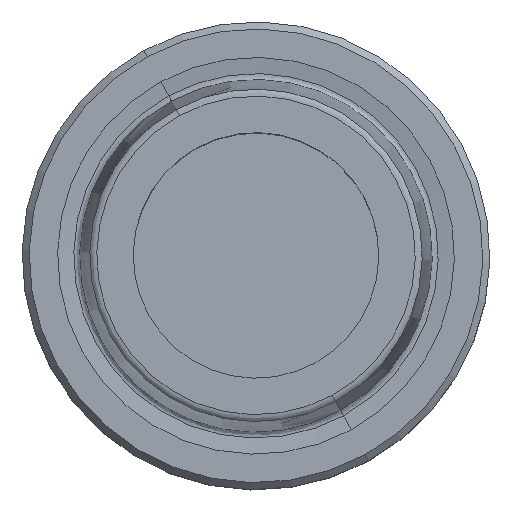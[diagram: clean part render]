
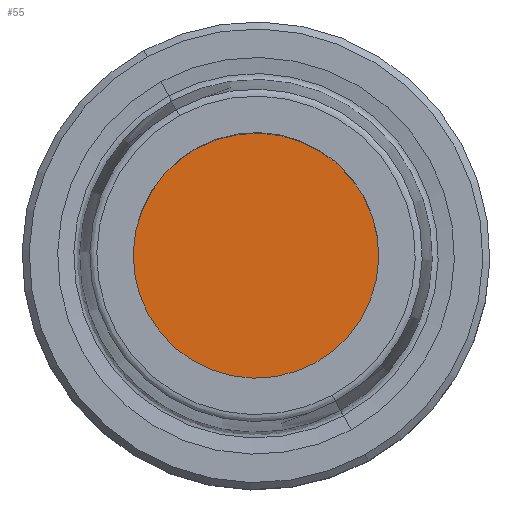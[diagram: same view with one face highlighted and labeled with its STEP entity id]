
A CAD part, top view. The second image highlights one B-rep face of the part: STEP entity #55.
In plain terms, the highlighted planar face has unit normal (0, 0, 1).
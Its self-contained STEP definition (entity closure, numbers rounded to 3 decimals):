
#35=AXIS2_PLACEMENT_3D('Plane Axis2P3D',#32,#33,#34) ;
#39=AXIS2_PLACEMENT_3D('Circle Axis2P3D',#37,#38,$) ;
#48=AXIS2_PLACEMENT_3D('Circle Axis2P3D',#46,#47,$) ;
#32=CARTESIAN_POINT('Axis2P3D Location',(0.,-9.9,-8.)) ;
#37=CARTESIAN_POINT('Axis2P3D Location',(0.,0.,-8.)) ;
#41=CARTESIAN_POINT('Vertex',(-5.034,9.215,-8.)) ;
#43=CARTESIAN_POINT('Vertex',(5.034,-9.215,-8.)) ;
#46=CARTESIAN_POINT('Axis2P3D Location',(0.,0.,-8.)) ;
#33=DIRECTION('Axis2P3D Direction',(0.,0.,-1.)) ;
#34=DIRECTION('Axis2P3D XDirection',(-1.,0.,0.)) ;
#38=DIRECTION('Axis2P3D Direction',(0.,0.,-1.)) ;
#47=DIRECTION('Axis2P3D Direction',(0.,0.,-1.)) ;
#52=ORIENTED_EDGE('',*,*,#45,.F.) ;
#53=ORIENTED_EDGE('',*,*,#50,.F.) ;
#55=ADVANCED_FACE('NOCUT',(#54),#36,.F.) ;
#40=CIRCLE('generated circle',#39,10.5) ;
#49=CIRCLE('generated circle',#48,10.5) ;
#45=EDGE_CURVE('',#42,#44,#40,.T.) ;
#50=EDGE_CURVE('',#44,#42,#49,.T.) ;
#51=EDGE_LOOP('',(#52,#53)) ;
#54=FACE_OUTER_BOUND('',#51,.T.) ;
#36=PLANE('',#35) ;
#42=VERTEX_POINT('',#41) ;
#44=VERTEX_POINT('',#43) ;
